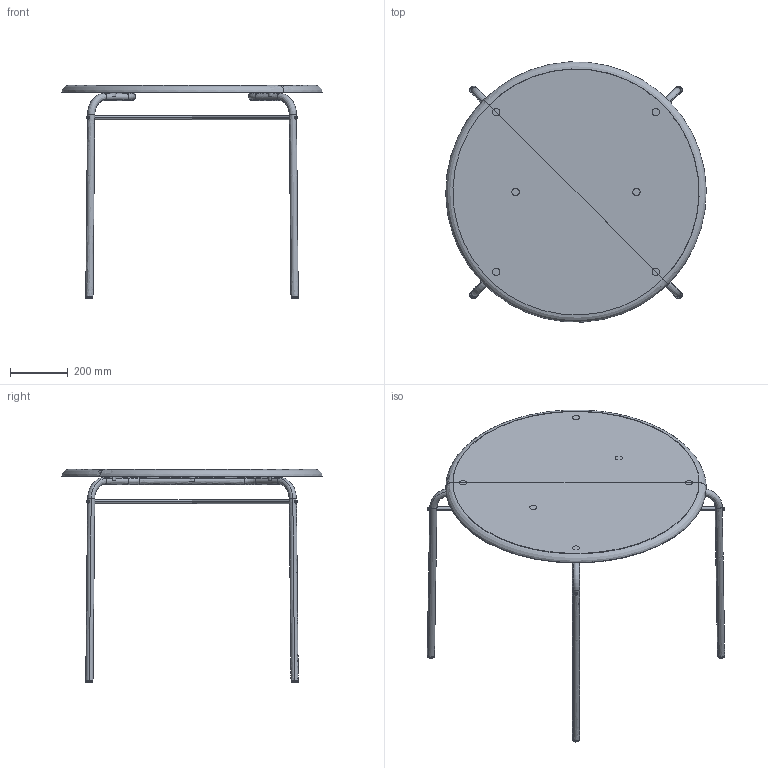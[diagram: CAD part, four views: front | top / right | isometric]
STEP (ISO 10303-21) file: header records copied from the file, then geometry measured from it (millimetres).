
FILE_DESCRIPTION(/* description */ (''),/* implementation_level */ '2;1');
FILE_NAME(/* name */ 'FRAMA_PetitRond-Table-L-3D',/* time_stamp */ '2025-11-06T10:23:23+01:00',/* author */ (''),/* organization */ (''),/* preprocessor_version */ 'ST-DEVELOPER v16.5',/* originating_system */ 'Rhino 7.38',/* authorisation */ '');
FILE_SCHEMA (('CONFIG_CONTROL_DESIGN'));
Length unit declared in the file: millimetre
Products named in the file (1): Document
Bounding box: 899.65 x 898.32 x 736.23 mm (x, y, z)
Volume: 1459678.7 mm3; surface area: 1790780.9 mm2
Topology: 11 solids, 20 shells, 190 faces, 357 edges, 203 vertices
Faces by surface type: bspline 96, plane 60, cylinder 34
Entity records: 6946 total; most frequent: CARTESIAN_POINT 4573, ORIENTED_EDGE 694, EDGE_CURVE 357, VERTEX_POINT 203, EDGE_LOOP 198, ADVANCED_FACE 190, FACE_OUTER_BOUND 190, B_SPLINE_CURVE_WITH_KNOTS 116
